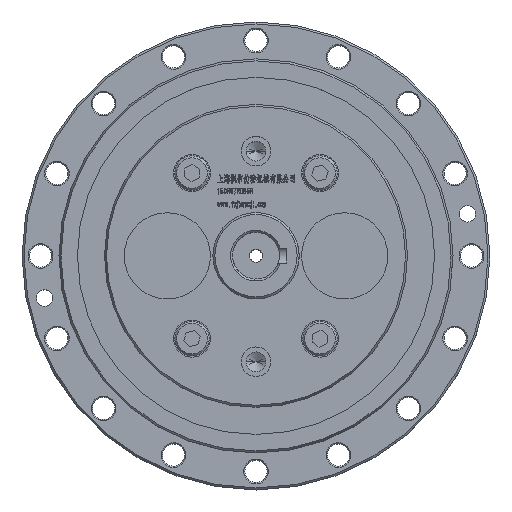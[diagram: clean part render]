
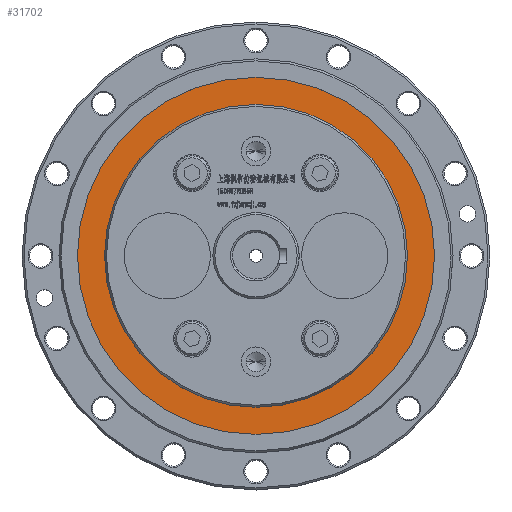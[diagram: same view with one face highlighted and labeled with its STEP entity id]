
A CAD part, top view. The second image highlights one B-rep face of the part: STEP entity #31702.
In plain terms, the highlighted planar face has unit normal (0, 0, 1).
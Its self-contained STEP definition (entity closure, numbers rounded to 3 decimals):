
#524 = ORIENTED_EDGE ( 'NONE', *, *, #66508, .F. ) ;
#6669 = CARTESIAN_POINT ( 'NONE',  ( 72.5, 0., 36. ) ) ;
#8179 = ORIENTED_EDGE ( 'NONE', *, *, #83107, .F. ) ;
#9080 = VERTEX_POINT ( 'NONE', #103770 ) ;
#10549 = CARTESIAN_POINT ( 'NONE',  ( 0., 0., 36. ) ) ;
#12696 = AXIS2_PLACEMENT_3D ( 'NONE', #10549, #69477, #44622 ) ;
#14717 = DIRECTION ( 'NONE',  ( -1., 0., 0. ) ) ;
#16496 = AXIS2_PLACEMENT_3D ( 'NONE', #93716, #51745, #14717 ) ;
#18812 = FACE_OUTER_BOUND ( 'NONE', #92097, .T. ) ;
#25642 = DIRECTION ( 'NONE',  ( 0., 0., 1. ) ) ;
#29066 = AXIS2_PLACEMENT_3D ( 'NONE', #76916, #25642, #33383 ) ;
#30111 = DIRECTION ( 'NONE',  ( 0., 0., 1. ) ) ;
#30999 = DIRECTION ( 'NONE',  ( -1., 0., 0. ) ) ;
#31616 = CIRCLE ( 'NONE', #38754, 61.5 ) ;
#31702 = ADVANCED_FACE ( 'NONE', ( #94317, #18812 ), #52345, .F. ) ;
#33383 = DIRECTION ( 'NONE',  ( -1., 0., 0. ) ) ;
#36192 = ORIENTED_EDGE ( 'NONE', *, *, #45272, .T. ) ;
#38754 = AXIS2_PLACEMENT_3D ( 'NONE', #54354, #30111, #70954 ) ;
#44622 = DIRECTION ( 'NONE',  ( 0., -1., 0. ) ) ;
#45272 = EDGE_CURVE ( 'NONE', #102601, #80559, #74299, .T. ) ;
#46531 = CARTESIAN_POINT ( 'NONE',  ( -72.5, 0., 36. ) ) ;
#49624 = AXIS2_PLACEMENT_3D ( 'NONE', #79569, #89482, #30999 ) ;
#51745 = DIRECTION ( 'NONE',  ( 0., 0., 1. ) ) ;
#52345 = PLANE ( 'NONE',  #12696 ) ;
#54354 = CARTESIAN_POINT ( 'NONE',  ( 0., 0., 36. ) ) ;
#55823 = VERTEX_POINT ( 'NONE', #63894 ) ;
#56422 = EDGE_CURVE ( 'NONE', #80559, #102601, #92456, .T. ) ;
#61625 = ORIENTED_EDGE ( 'NONE', *, *, #56422, .T. ) ;
#63894 = CARTESIAN_POINT ( 'NONE',  ( -61.5, 0., 36. ) ) ;
#66508 = EDGE_CURVE ( 'NONE', #9080, #55823, #31616, .T. ) ;
#69477 = DIRECTION ( 'NONE',  ( 0., 0., -1. ) ) ;
#69502 = EDGE_LOOP ( 'NONE', ( #8179, #524 ) ) ;
#70954 = DIRECTION ( 'NONE',  ( -1., 0., 0. ) ) ;
#74299 = CIRCLE ( 'NONE', #49624, 72.5 ) ;
#76916 = CARTESIAN_POINT ( 'NONE',  ( 0., 0., 36. ) ) ;
#79569 = CARTESIAN_POINT ( 'NONE',  ( 0., 0., 36. ) ) ;
#80559 = VERTEX_POINT ( 'NONE', #6669 ) ;
#83107 = EDGE_CURVE ( 'NONE', #55823, #9080, #100932, .T. ) ;
#89482 = DIRECTION ( 'NONE',  ( 0., 0., 1. ) ) ;
#92097 = EDGE_LOOP ( 'NONE', ( #36192, #61625 ) ) ;
#92456 = CIRCLE ( 'NONE', #29066, 72.5 ) ;
#93716 = CARTESIAN_POINT ( 'NONE',  ( 0., 0., 36. ) ) ;
#94317 = FACE_BOUND ( 'NONE', #69502, .T. ) ;
#100932 = CIRCLE ( 'NONE', #16496, 61.5 ) ;
#102601 = VERTEX_POINT ( 'NONE', #46531 ) ;
#103770 = CARTESIAN_POINT ( 'NONE',  ( 61.5, 0., 36. ) ) ;
